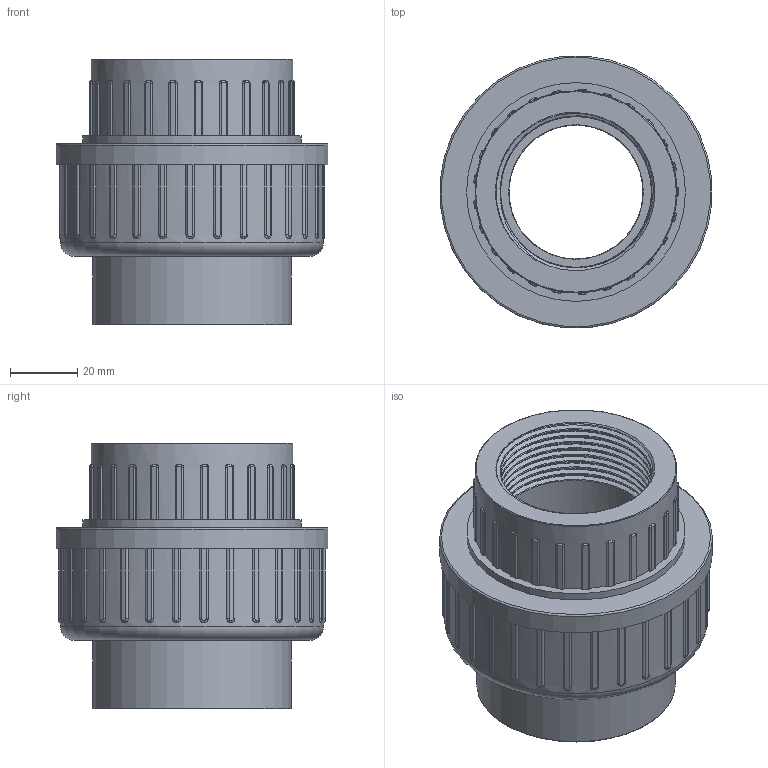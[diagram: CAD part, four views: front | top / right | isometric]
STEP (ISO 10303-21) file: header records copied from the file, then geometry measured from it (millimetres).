
FILE_DESCRIPTION(/* description */ (''),/* implementation_level */ '2;1');
FILE_NAME(/* name */ 'C:\Users\POLYPIPE\Desktop\DATASET INVENTOR\LIBRERIA EFFAST\3D_RACCORDI\RER\3D_RERBOE\3D_RERBOE050F.stp',/* time_stamp */ '2018-01-22T15:57:12+01:00',/* author */ ('POLYPIPE'),/* organization */ (''),/* preprocessor_version */ 'ST-DEVELOPER v16.1',/* originating_system */ 'Autodesk Inventor 2016',/* authorisation */ '');
FILE_SCHEMA (('CONFIG_CONTROL_DESIGN'));
Length unit declared in the file: centimetre
Products named in the file (1): 3D_RERBOE
Bounding box: 80.72 x 80.72 x 79 mm (x, y, z)
Volume: 165029.7 mm3; surface area: 44896.9 mm2
Topology: 1 solids, 2 shells, 468 faces, 1263 edges, 807 vertices
Faces by surface type: cylinder 197, plane 144, bspline 120, torus 4, cone 3
Full cylindrical faces by diameter (mm): 39.8 x1, 40 x1, 44.845 x2, 59 x1, 59.4 x1, 60 x1, 62.5 x1, 63.3 x1, 65 x1, 78.3 x1, 81 x1
Entity records: 23684 total; most frequent: CARTESIAN_POINT 11915, ORIENTED_EDGE 2474, DIRECTION 2251, EDGE_CURVE 1237, AXIS2_PLACEMENT_3D 860, VERTEX_POINT 799, LINE 531, VECTOR 531
